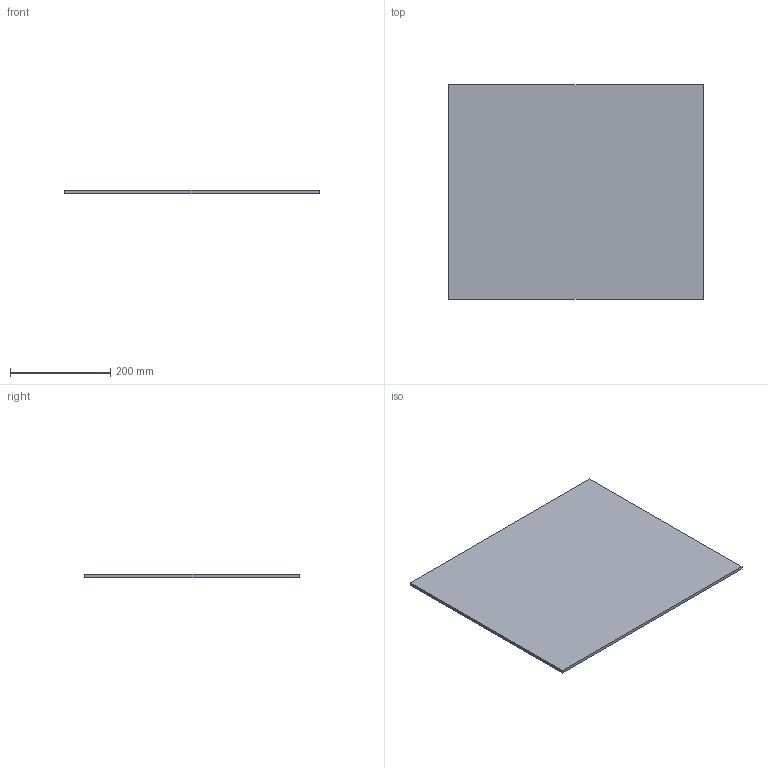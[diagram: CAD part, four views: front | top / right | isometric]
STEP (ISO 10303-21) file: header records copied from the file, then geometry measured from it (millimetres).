
FILE_DESCRIPTION (( 'STEP AP214' ), '1' );
FILE_NAME ('Lochblech_NL450_KAB600_16.step', '2010-10-11T13:38:26', ( 'grass' ), ( '' ), 'SwSTEP 2.0', 'SolidWorks 2010', '' );
FILE_SCHEMA (( 'AUTOMOTIVE_DESIGN' ));
Length unit declared in the file: millimetre
Products named in the file (1): Lochblech_NL450_KAB600_16
Bounding box: 508 x 429 x 6 mm (x, y, z)
Volume: 1307592 mm3; surface area: 447108 mm2
Topology: 1 solids, 1 shells, 6 faces, 12 edges, 8 vertices
Faces by surface type: plane 6
Entity records: 190 total; most frequent: CARTESIAN_POINT 27, DIRECTION 26, ORIENTED_EDGE 24, EDGE_CURVE 12, LINE 12, VECTOR 12, VERTEX_POINT 8, AXIS2_PLACEMENT_3D 7
